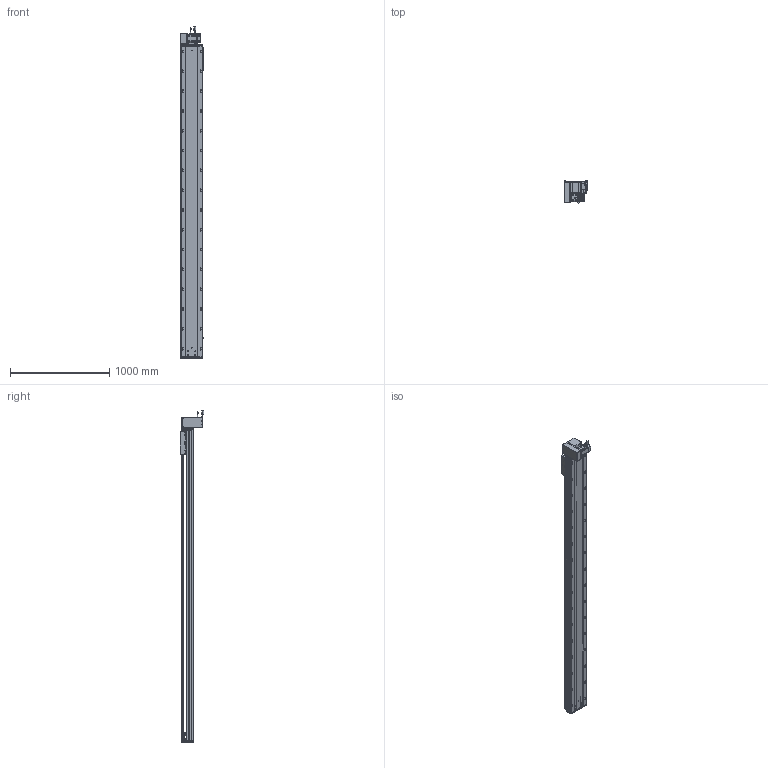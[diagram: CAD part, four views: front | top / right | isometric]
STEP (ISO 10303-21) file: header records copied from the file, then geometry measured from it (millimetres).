
FILE_DESCRIPTION (( 'STEP AP203' ), '1' );
FILE_NAME ('RY220-T-300-DL.SLDASM_2800.step', '2022-07-25T07:55:13', ( '' ), ( '' ), 'SwSTEP 2.0', 'SolidWorks 2016', '' );
FILE_SCHEMA (( 'CONFIG_CONTROL_DESIGN' ));
Length unit declared in the file: millimetre
Products named in the file (14): RY220翋肮祭謫釱; RY220-T-蛌殏萇儂假蚾啣(750W); RY220-俋离672覜茼んえ; 怢湛750W_ECMA-CX0807ES; RY220-T-300-DL.SLDASM_2800; 覜茼ん672; RY220-T菁釱-300_2800; RY220-同步轮副支撑座6304×2; RY220圉猾敕々湍臏賑輸; RY220翋肮祭謫裔啣; RY220-T-300-奻裔啣_2800; 滅袉蝶18-15; 110A-T-肮祭謫釱傷裔; RY220-T-湍謫欶(鍼踢)
Assembly tree (18 placements, depth 2):
  RY220-T-300-DL.SLDASM_2800
    RY220-T菁釱-300_2800
    RY220翋肮祭謫釱
    覜茼ん672  x3
    RY220圉猾敕々湍臏賑輸
    RY220-T-300-奻裔啣_2800
    RY220-俋离672覜茼んえ
    滅袉蝶18-15  x3
    RY220翋肮祭謫裔啣  x2
    110A-T-肮祭謫釱傷裔
    怢湛750W_ECMA-CX0807ES
    RY220-T-湍謫欶(鍼踢)
    RY220-T-蛌殏萇儂假蚾啣(750W)
    RY220-同步轮副支撑座6304×2
Bounding box: 239.7 x 240.74 x 3353.27 mm (x, y, z)
Volume: 23910748.7 mm3; surface area: 7377035.7 mm2
Topology: 19 solids, 19 shells, 2990 faces, 8267 edges, 5178 vertices
Faces by surface type: cylinder 1470, plane 1069, cone 369, bspline 56, sphere 16, torus 10
Entity records: 99619 total; most frequent: CARTESIAN_POINT 28087, ORIENTED_EDGE 14778, DIRECTION 14264, EDGE_CURVE 7389, AXIS2_PLACEMENT_3D 5144, VERTEX_POINT 4802, VECTOR 3976, LINE 3976
